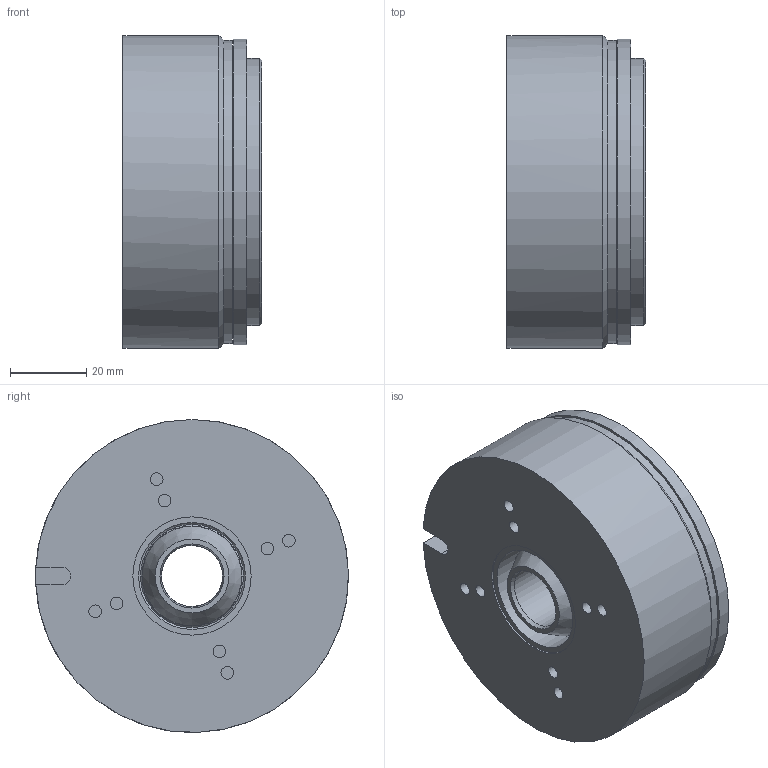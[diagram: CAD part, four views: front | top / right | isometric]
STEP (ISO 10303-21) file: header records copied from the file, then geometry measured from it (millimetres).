
FILE_DESCRIPTION (( 'STEP AP214' ), '1' );
FILE_NAME ('86 61108P00-0003_Index d.STEP', '2020-02-10T09:07:45', ( '' ), ( '' ), 'SwSTEP 2.0', 'SolidWorks 2018', '' );
FILE_SCHEMA (( 'AUTOMOTIVE_DESIGN' ));
Length unit declared in the file: millimetre
Products named in the file (1): 86 61108P00-0003_Index d
Bounding box: 36.43 x 82 x 82 mm (x, y, z)
Volume: 167107.1 mm3; surface area: 35415.6 mm2
Topology: 2 solids, 2 shells, 64 faces, 118 edges, 75 vertices
Faces by surface type: cylinder 27, plane 24, cone 10, torus 3
Full cylindrical faces by diameter (mm): 3.3 x8, 4.2 x3, 16 x1, 16.2 x1, 25.5 x1, 26 x1, 27 x1, 28 x1, 31 x1, 32.5 x1, 33.7 x1, 34.9 x1, 67 x1, 70 x1, 79.4 x1, 80 x1, 82 x1
Entity records: 1874 total; most frequent: CARTESIAN_POINT 557, DIRECTION 258, ORIENTED_EDGE 148, EDGE_LOOP 130, AXIS2_PLACEMENT_3D 125, FACE_OUTER_BOUND 93, EDGE_CURVE 74, VERTEX_POINT 70
